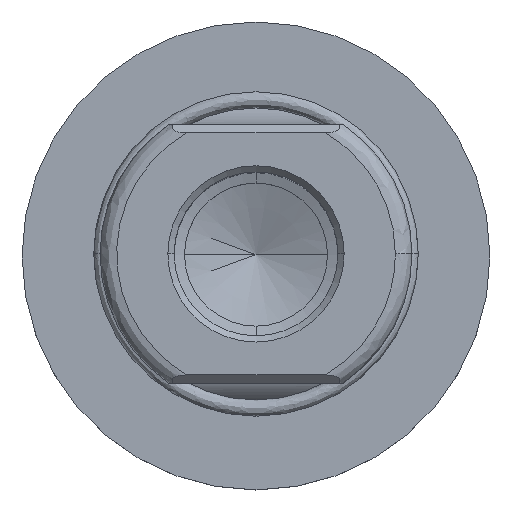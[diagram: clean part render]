
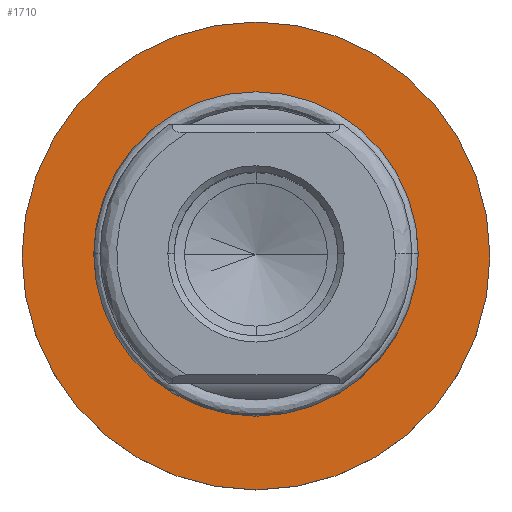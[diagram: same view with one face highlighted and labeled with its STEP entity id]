
A CAD part, top view. The second image highlights one B-rep face of the part: STEP entity #1710.
In plain terms, the highlighted planar face has unit normal (0, 0, 1).
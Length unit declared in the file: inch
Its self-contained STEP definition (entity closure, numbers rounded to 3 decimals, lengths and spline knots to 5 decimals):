
#106 = ORIENTED_EDGE ( 'NONE', *, *, #187, .T. ) ;
#146 = PLANE ( 'NONE',  #1043 ) ;
#161 = DIRECTION ( 'NONE',  ( -1., 0., 0. ) ) ;
#187 = EDGE_CURVE ( 'NONE', #1974, #2290, #1980, .T. ) ;
#232 = EDGE_CURVE ( 'NONE', #2290, #1974, #1000, .T. ) ;
#250 = DIRECTION ( 'NONE',  ( -1., 0., 0. ) ) ;
#258 = EDGE_LOOP ( 'NONE', ( #1828, #356 ) ) ;
#341 = CARTESIAN_POINT ( 'NONE',  ( 0., 0., -2.875 ) ) ;
#356 = ORIENTED_EDGE ( 'NONE', *, *, #1785, .T. ) ;
#425 = DIRECTION ( 'NONE',  ( 0., 0., 1. ) ) ;
#459 = AXIS2_PLACEMENT_3D ( 'NONE', #1174, #425, #250 ) ;
#511 = FACE_BOUND ( 'NONE', #2351, .T. ) ;
#513 = ORIENTED_EDGE ( 'NONE', *, *, #232, .T. ) ;
#557 = EDGE_CURVE ( 'NONE', #1116, #1853, #1906, .T. ) ;
#558 = DIRECTION ( 'NONE',  ( 0., 0., -1. ) ) ;
#593 = CARTESIAN_POINT ( 'NONE',  ( 0., 0., -2.875 ) ) ;
#608 = DIRECTION ( 'NONE',  ( 0., 0., 1. ) ) ;
#719 = CARTESIAN_POINT ( 'NONE',  ( -0.5625, 0., -2.875 ) ) ;
#1000 = CIRCLE ( 'NONE', #1683, 0.375 ) ;
#1043 = AXIS2_PLACEMENT_3D ( 'NONE', #341, #1446, #1076 ) ;
#1076 = DIRECTION ( 'NONE',  ( 1., 0., 0. ) ) ;
#1116 = VERTEX_POINT ( 'NONE', #719 ) ;
#1174 = CARTESIAN_POINT ( 'NONE',  ( 0., 0., -2.875 ) ) ;
#1206 = AXIS2_PLACEMENT_3D ( 'NONE', #2383, #1266, #161 ) ;
#1266 = DIRECTION ( 'NONE',  ( 0., 0., -1. ) ) ;
#1282 = CIRCLE ( 'NONE', #1976, 0.5625 ) ;
#1446 = DIRECTION ( 'NONE',  ( 0., 0., 1. ) ) ;
#1683 = AXIS2_PLACEMENT_3D ( 'NONE', #2405, #558, #2038 ) ;
#1710 = ADVANCED_FACE ( 'NONE', ( #511, #2169 ), #146, .T. ) ;
#1785 = EDGE_CURVE ( 'NONE', #1853, #1116, #1282, .T. ) ;
#1828 = ORIENTED_EDGE ( 'NONE', *, *, #557, .T. ) ;
#1853 = VERTEX_POINT ( 'NONE', #2140 ) ;
#1906 = CIRCLE ( 'NONE', #459, 0.5625 ) ;
#1974 = VERTEX_POINT ( 'NONE', #1979 ) ;
#1976 = AXIS2_PLACEMENT_3D ( 'NONE', #593, #608, #2071 ) ;
#1979 = CARTESIAN_POINT ( 'NONE',  ( 0.375, 0., -2.875 ) ) ;
#1980 = CIRCLE ( 'NONE', #1206, 0.375 ) ;
#2025 = CARTESIAN_POINT ( 'NONE',  ( -0.375, 0., -2.875 ) ) ;
#2038 = DIRECTION ( 'NONE',  ( -1., 0., 0. ) ) ;
#2071 = DIRECTION ( 'NONE',  ( -1., 0., 0. ) ) ;
#2140 = CARTESIAN_POINT ( 'NONE',  ( 0.5625, 0., -2.875 ) ) ;
#2169 = FACE_OUTER_BOUND ( 'NONE', #258, .T. ) ;
#2290 = VERTEX_POINT ( 'NONE', #2025 ) ;
#2351 = EDGE_LOOP ( 'NONE', ( #513, #106 ) ) ;
#2383 = CARTESIAN_POINT ( 'NONE',  ( 0., 0., -2.875 ) ) ;
#2405 = CARTESIAN_POINT ( 'NONE',  ( 0., 0., -2.875 ) ) ;
